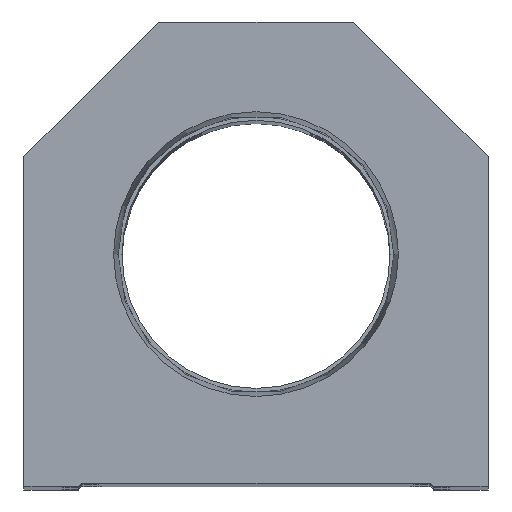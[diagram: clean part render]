
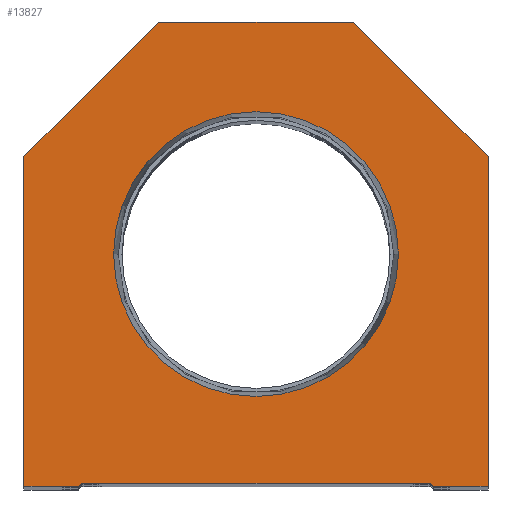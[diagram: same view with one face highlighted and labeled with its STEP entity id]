
A CAD part, top view. The second image highlights one B-rep face of the part: STEP entity #13827.
In plain terms, the highlighted planar face has unit normal (0, 0, 1).
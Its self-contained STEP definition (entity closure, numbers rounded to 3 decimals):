
#66 = ORIENTED_EDGE ( 'NONE', *, *, #9217, .T. ) ;
#77 = DIRECTION ( 'NONE',  ( -0.707, -0.707, 0. ) ) ;
#82 = DIRECTION ( 'NONE',  ( 0., 1., 0. ) ) ;
#161 = CARTESIAN_POINT ( 'NONE',  ( -28.6, 0.5, 0. ) ) ;
#501 = EDGE_CURVE ( 'NONE', #10248, #10974, #5923, .T. ) ;
#742 = LINE ( 'NONE', #5823, #16603 ) ;
#779 = VERTEX_POINT ( 'NONE', #15565 ) ;
#1036 = DIRECTION ( 'NONE',  ( 1., 0., 0. ) ) ;
#1116 = EDGE_CURVE ( 'NONE', #8879, #16747, #14608, .T. ) ;
#1289 = EDGE_CURVE ( 'NONE', #11130, #16253, #742, .T. ) ;
#1643 = VERTEX_POINT ( 'NONE', #13517 ) ;
#1975 = LINE ( 'NONE', #8355, #7326 ) ;
#2044 = VECTOR ( 'NONE', #16387, 1000. ) ;
#2468 = CARTESIAN_POINT ( 'NONE',  ( 16., 76.2, 0. ) ) ;
#2825 = AXIS2_PLACEMENT_3D ( 'NONE', #17698, #14888, #8486 ) ;
#3404 = CARTESIAN_POINT ( 'NONE',  ( -29.1, 0., 0. ) ) ;
#4329 = DIRECTION ( 'NONE',  ( -0.707, 0.707, 0. ) ) ;
#4554 = EDGE_CURVE ( 'NONE', #16253, #779, #19259, .T. ) ;
#4650 = ORIENTED_EDGE ( 'NONE', *, *, #6552, .T. ) ;
#4915 = LINE ( 'NONE', #14498, #5041 ) ;
#4933 = EDGE_CURVE ( 'NONE', #14596, #19947, #7725, .T. ) ;
#5041 = VECTOR ( 'NONE', #12753, 1000. ) ;
#5158 = EDGE_CURVE ( 'NONE', #10974, #14042, #18461, .T. ) ;
#5248 = LINE ( 'NONE', #2468, #2044 ) ;
#5741 = VECTOR ( 'NONE', #13496, 1000. ) ;
#5823 = CARTESIAN_POINT ( 'NONE',  ( -14.55, 14.55, 0. ) ) ;
#5846 = EDGE_LOOP ( 'NONE', ( #4650, #11060, #17289, #13508, #9452, #12365, #12083, #66, #12880, #19743 ) ) ;
#5923 = LINE ( 'NONE', #7453, #10632 ) ;
#5934 = CARTESIAN_POINT ( 'NONE',  ( -23.374, 38.1, 0. ) ) ;
#5993 = EDGE_LOOP ( 'NONE', ( #7096, #9319 ) ) ;
#6044 = CARTESIAN_POINT ( 'NONE',  ( 23.374, 38.1, 0. ) ) ;
#6057 = DIRECTION ( 'NONE',  ( 0., 0., 1. ) ) ;
#6451 = CARTESIAN_POINT ( 'NONE',  ( -28.6, 0.5, 0. ) ) ;
#6552 = EDGE_CURVE ( 'NONE', #1643, #11130, #1975, .T. ) ;
#6602 = EDGE_CURVE ( 'NONE', #16747, #8879, #15584, .T. ) ;
#6890 = EDGE_CURVE ( 'NONE', #19947, #1643, #4915, .T. ) ;
#7025 = DIRECTION ( 'NONE',  ( 0.707, 0.707, 0. ) ) ;
#7079 = VECTOR ( 'NONE', #18454, 1000. ) ;
#7096 = ORIENTED_EDGE ( 'NONE', *, *, #1116, .F. ) ;
#7102 = DIRECTION ( 'NONE',  ( 0., 0., 1. ) ) ;
#7192 = CARTESIAN_POINT ( 'NONE',  ( 14.55, 14.55, 0. ) ) ;
#7326 = VECTOR ( 'NONE', #8255, 1000. ) ;
#7453 = CARTESIAN_POINT ( 'NONE',  ( 38.1, 0., 0. ) ) ;
#7725 = LINE ( 'NONE', #20440, #16742 ) ;
#7924 = VECTOR ( 'NONE', #4329, 1000. ) ;
#8255 = DIRECTION ( 'NONE',  ( 1., 0., 0. ) ) ;
#8355 = CARTESIAN_POINT ( 'NONE',  ( -28.6, 0., 0. ) ) ;
#8486 = DIRECTION ( 'NONE',  ( 1., 0., 0. ) ) ;
#8879 = VERTEX_POINT ( 'NONE', #6044 ) ;
#9217 = EDGE_CURVE ( 'NONE', #14042, #14596, #5248, .T. ) ;
#9319 = ORIENTED_EDGE ( 'NONE', *, *, #6602, .F. ) ;
#9452 = ORIENTED_EDGE ( 'NONE', *, *, #19442, .T. ) ;
#9934 = FACE_OUTER_BOUND ( 'NONE', #5846, .T. ) ;
#10248 = VERTEX_POINT ( 'NONE', #19879 ) ;
#10632 = VECTOR ( 'NONE', #82, 1000. ) ;
#10684 = CARTESIAN_POINT ( 'NONE',  ( 28.6, 0., 0. ) ) ;
#10940 = CARTESIAN_POINT ( 'NONE',  ( 38.1, 54.1, 0. ) ) ;
#10974 = VERTEX_POINT ( 'NONE', #10940 ) ;
#11060 = ORIENTED_EDGE ( 'NONE', *, *, #1289, .T. ) ;
#11130 = VERTEX_POINT ( 'NONE', #3404 ) ;
#11273 = FACE_BOUND ( 'NONE', #5993, .T. ) ;
#11489 = PLANE ( 'NONE',  #2825 ) ;
#12083 = ORIENTED_EDGE ( 'NONE', *, *, #5158, .T. ) ;
#12365 = ORIENTED_EDGE ( 'NONE', *, *, #501, .T. ) ;
#12443 = LINE ( 'NONE', #10684, #7079 ) ;
#12692 = CARTESIAN_POINT ( 'NONE',  ( -38.1, 54.1, 0. ) ) ;
#12753 = DIRECTION ( 'NONE',  ( 0., -1., 0. ) ) ;
#12880 = ORIENTED_EDGE ( 'NONE', *, *, #4933, .T. ) ;
#13496 = DIRECTION ( 'NONE',  ( 0.707, -0.707, 0. ) ) ;
#13508 = ORIENTED_EDGE ( 'NONE', *, *, #18382, .T. ) ;
#13517 = CARTESIAN_POINT ( 'NONE',  ( -38.1, 0., 0. ) ) ;
#13726 = CARTESIAN_POINT ( 'NONE',  ( 0., 38.1, 0. ) ) ;
#13827 = ADVANCED_FACE ( 'NONE', ( #11273, #9934 ), #11489, .T. ) ;
#13890 = CARTESIAN_POINT ( 'NONE',  ( 38.1, 54.1, 0. ) ) ;
#14042 = VERTEX_POINT ( 'NONE', #14257 ) ;
#14255 = AXIS2_PLACEMENT_3D ( 'NONE', #13726, #7102, #1036 ) ;
#14257 = CARTESIAN_POINT ( 'NONE',  ( 16., 76.2, 0. ) ) ;
#14394 = DIRECTION ( 'NONE',  ( 1., 0., 0. ) ) ;
#14498 = CARTESIAN_POINT ( 'NONE',  ( -38.1, 0., 0. ) ) ;
#14596 = VERTEX_POINT ( 'NONE', #16144 ) ;
#14608 = CIRCLE ( 'NONE', #17267, 23.374 ) ;
#14888 = DIRECTION ( 'NONE',  ( 0., 0., 1. ) ) ;
#15565 = CARTESIAN_POINT ( 'NONE',  ( 28.6, 0.5, 0. ) ) ;
#15584 = CIRCLE ( 'NONE', #14255, 23.374 ) ;
#15869 = VERTEX_POINT ( 'NONE', #18314 ) ;
#16144 = CARTESIAN_POINT ( 'NONE',  ( -16., 76.2, 0. ) ) ;
#16253 = VERTEX_POINT ( 'NONE', #161 ) ;
#16387 = DIRECTION ( 'NONE',  ( -1., 0., 0. ) ) ;
#16603 = VECTOR ( 'NONE', #7025, 1000. ) ;
#16742 = VECTOR ( 'NONE', #77, 1000. ) ;
#16747 = VERTEX_POINT ( 'NONE', #5934 ) ;
#17267 = AXIS2_PLACEMENT_3D ( 'NONE', #17393, #6057, #18845 ) ;
#17289 = ORIENTED_EDGE ( 'NONE', *, *, #4554, .T. ) ;
#17393 = CARTESIAN_POINT ( 'NONE',  ( 0., 38.1, 0. ) ) ;
#17698 = CARTESIAN_POINT ( 'NONE',  ( 0., 0., 0. ) ) ;
#18252 = LINE ( 'NONE', #7192, #5741 ) ;
#18314 = CARTESIAN_POINT ( 'NONE',  ( 29.1, 0., 0. ) ) ;
#18382 = EDGE_CURVE ( 'NONE', #779, #15869, #18252, .T. ) ;
#18454 = DIRECTION ( 'NONE',  ( 1., 0., 0. ) ) ;
#18461 = LINE ( 'NONE', #13890, #7924 ) ;
#18845 = DIRECTION ( 'NONE',  ( 1., 0., 0. ) ) ;
#19259 = LINE ( 'NONE', #6451, #19731 ) ;
#19442 = EDGE_CURVE ( 'NONE', #15869, #10248, #12443, .T. ) ;
#19731 = VECTOR ( 'NONE', #14394, 1000. ) ;
#19743 = ORIENTED_EDGE ( 'NONE', *, *, #6890, .T. ) ;
#19879 = CARTESIAN_POINT ( 'NONE',  ( 38.1, 0., 0. ) ) ;
#19947 = VERTEX_POINT ( 'NONE', #12692 ) ;
#20440 = CARTESIAN_POINT ( 'NONE',  ( -38.1, 54.1, 0. ) ) ;
